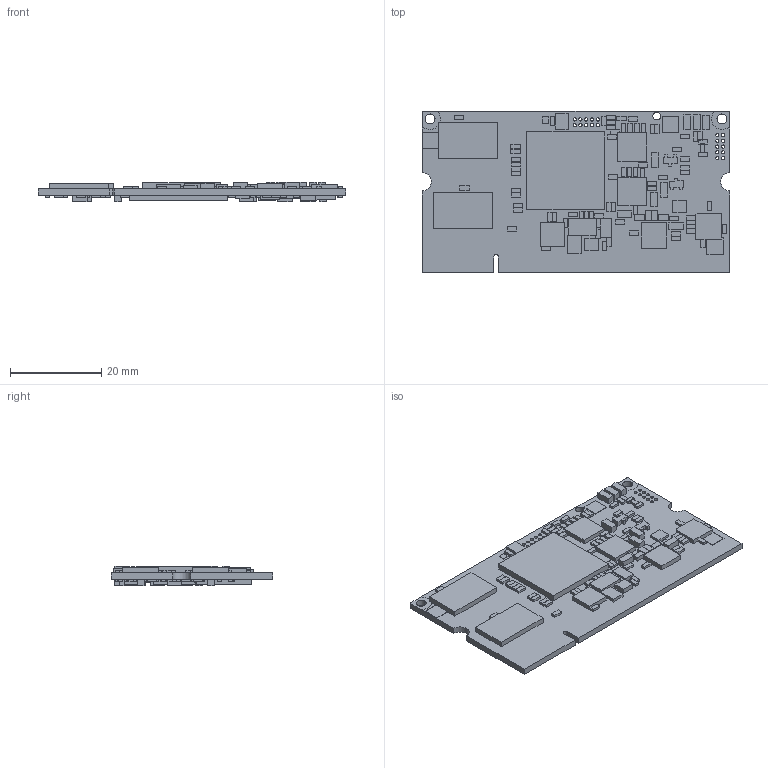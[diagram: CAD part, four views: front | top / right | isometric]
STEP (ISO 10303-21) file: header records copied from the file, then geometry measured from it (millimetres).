
FILE_DESCRIPTION (( 'STEP AP203' ), '1' );
FILE_NAME ('ART100521_end.STEP-29-06-2011.STEP', '2011-06-29T07:56:15', ( 'gaby' ), ( '' ), 'SwSTEP 2.0', 'SolidWorks 2011', '' );
FILE_SCHEMA (( 'CONFIG_CONTROL_DESIGN' ));
Length unit declared in the file: millimetre
Products named in the file (1): ART100521_end.STEP-29-06-2011
Bounding box: 67.6 x 35.57 x 4.2 mm (x, y, z)
Volume: 5034.8 mm3; surface area: 10060.1 mm2
Topology: 243 solids, 243 shells, 1548 faces, 3186 edges, 2124 vertices
Faces by surface type: plane 1492, cylinder 56
Entity records: 39707 total; most frequent: CARTESIAN_POINT 6859, DIRECTION 6396, ORIENTED_EDGE 6372, EDGE_CURVE 3186, VECTOR 3074, LINE 3074, VERTEX_POINT 2124, AXIS2_PLACEMENT_3D 1661
